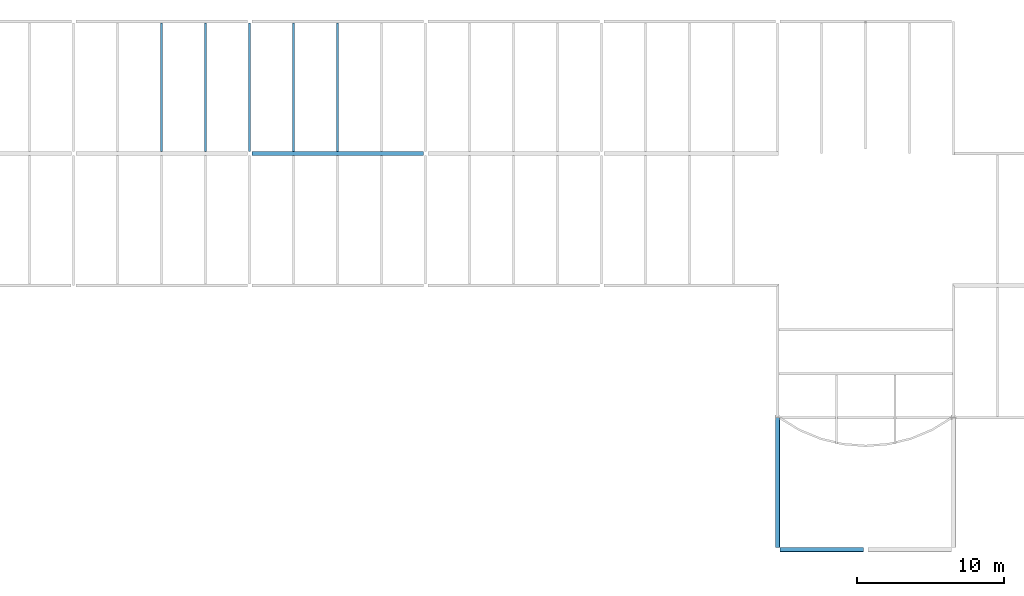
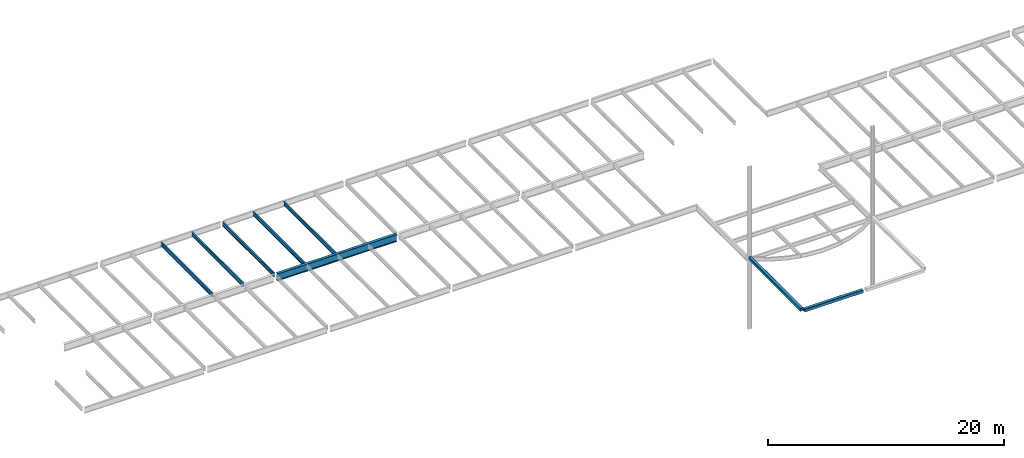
# One storey, part 4 of 21: 8 beams.
"""IFC2X3 building model written with IfcOpenShell, lengths in millimetres."""

from ifc_helpers import new_model, si_unit, origin, place, context, project, spatial, faceted_brep, material, element, save


model = new_model("IFC2X3")

# Units and contexts
context_of_model = context(None, 3, precision=1e-05, world=origin())
ifc_project = project(units=[si_unit("LENGTHUNIT", "METRE", prefix="MILLI")], contexts=[context_of_model])

# Building, storey
building = spatial("IfcBuilding", under=ifc_project, Name="Building", CompositionType="ELEMENT")
storey = spatial("IfcBuildingStorey", under=building, Name="FL6-FRM", CompositionType="ELEMENT")

# Beams
ifc_material_1 = material(Name="A992")
beam_1_placement = place(None, origin())
element("IfcBeam", 1, at=beam_1_placement, inside=storey, material=ifc_material_1, Name="B355", context=context_of_model, shape_type="Brep", body=[
    faceted_brep([(-42070.0, 35910.5, 21970.0), (-41930.0, 35910.5, 21970.0), (-41930.0, 27132.5, 21970.0), (-42070.0, 27132.5, 21970.0), (-41930.0, 35910.5, 21981.2), (-41930.0, 27132.5, 21981.2), (-41986.3, 35910.5, 21981.2), (-41986.3, 27132.5, 21981.2), (-41988.9, 35910.5, 21981.5), (-41988.9, 27132.5, 21981.5), (-41991.4, 35910.5, 21982.6), (-41991.4, 27132.5, 21982.6), (-41993.5, 35910.5, 21984.2), (-41993.5, 27132.5, 21984.2), (-41995.1, 35910.5, 21986.3), (-41995.1, 27132.5, 21986.3), (-41996.2, 35910.5, 21988.8), (-41996.2, 27132.5, 21988.8), (-41996.5, 35910.5, 21991.4), (-41996.5, 27132.5, 21991.4), (-41996.5, 35910.5, 22351.6), (-41996.5, 27132.5, 22351.6), (-41996.2, 35910.5, 22354.2), (-41996.2, 27132.5, 22354.2), (-41995.1, 35910.5, 22356.7), (-41995.1, 27132.5, 22356.7), (-41993.5, 35910.5, 22358.8), (-41993.5, 27132.5, 22358.8), (-41991.4, 35910.5, 22360.4), (-41991.4, 27132.5, 22360.4), (-41988.9, 35910.5, 22361.5), (-41988.9, 27132.5, 22361.5), (-41986.3, 35910.5, 22361.8), (-41986.3, 27132.5, 22361.8), (-41930.0, 35910.5, 22361.8), (-41930.0, 27132.5, 22361.8), (-41930.0, 35910.5, 22373.0), (-41930.0, 27132.5, 22373.0), (-42070.0, 35910.5, 22373.0), (-42070.0, 27132.5, 22373.0), (-42070.0, 35910.5, 22361.8), (-42070.0, 27132.5, 22361.8), (-42013.7, 35910.5, 22361.8), (-42013.7, 27132.5, 22361.8), (-42011.1, 35910.5, 22361.5), (-42011.1, 27132.5, 22361.5), (-42008.6, 35910.5, 22360.4), (-42008.6, 27132.5, 22360.4), (-42006.5, 35910.5, 22358.8), (-42006.5, 27132.5, 22358.8), (-42004.9, 35910.5, 22356.7), (-42004.9, 27132.5, 22356.7), (-42003.8, 35910.5, 22354.2), (-42003.8, 27132.5, 22354.2), (-42003.5, 35910.5, 22351.6), (-42003.5, 27132.5, 22351.6), (-42003.5, 35910.5, 21991.4), (-42003.5, 27132.5, 21991.4), (-42003.8, 35910.5, 21988.8), (-42003.8, 27132.5, 21988.8), (-42004.9, 35910.5, 21986.3), (-42004.9, 27132.5, 21986.3), (-42006.5, 35910.5, 21984.2), (-42006.5, 27132.5, 21984.2), (-42008.6, 35910.5, 21982.6), (-42008.6, 27132.5, 21982.6), (-42011.1, 35910.5, 21981.5), (-42011.1, 27132.5, 21981.5), (-42013.7, 35910.5, 21981.2), (-42013.7, 27132.5, 21981.2), (-42070.0, 35910.5, 21981.2), (-42070.0, 27132.5, 21981.2)], [[[0, 1, 2, 3]], [[1, 4, 5, 2]], [[4, 6, 7, 5]], [[6, 8, 9, 7]], [[8, 10, 11, 9]], [[10, 12, 13, 11]], [[12, 14, 15, 13]], [[14, 16, 17, 15]], [[16, 18, 19, 17]], [[18, 20, 21, 19]], [[20, 22, 23, 21]], [[22, 24, 25, 23]], [[24, 26, 27, 25]], [[26, 28, 29, 27]], [[28, 30, 31, 29]], [[30, 32, 33, 31]], [[32, 34, 35, 33]], [[34, 36, 37, 35]], [[36, 38, 39, 37]], [[38, 40, 41, 39]], [[40, 42, 43, 41]], [[42, 44, 45, 43]], [[44, 46, 47, 45]], [[46, 48, 49, 47]], [[48, 50, 51, 49]], [[50, 52, 53, 51]], [[52, 54, 55, 53]], [[54, 56, 57, 55]], [[56, 58, 59, 57]], [[58, 60, 61, 59]], [[60, 62, 63, 61]], [[62, 64, 65, 63]], [[64, 66, 67, 65]], [[66, 68, 69, 67]], [[68, 70, 71, 69]], [[70, 0, 3, 71]], [[0, 70, 68, 66, 64, 62, 60, 58, 56, 54, 52, 50, 48, 46, 44, 42, 40, 38, 36, 34, 32, 30, 28, 26, 24, 22, 20, 18, 16, 14, 12, 10, 8, 6, 4, 1]], [[3, 2, 5, 7, 9, 11, 13, 15, 17, 19, 21, 23, 25, 27, 29, 31, 33, 35, 37, 39, 41, 43, 45, 47, 49, 51, 53, 55, 57, 59, 61, 63, 65, 67, 69, 71]]]),
])
ifc_material_2 = material(Name="A992")
beam_2_placement = place(None, origin())
element("IfcBeam", 2, at=beam_2_placement, inside=storey, material=ifc_material_2, Name="B356", context=context_of_model, shape_type="Brep", body=[
    faceted_brep([(-39070.0, 35910.5, 21970.0), (-38930.0, 35910.5, 21970.0), (-38930.0, 27132.5, 21970.0), (-39070.0, 27132.5, 21970.0), (-38930.0, 35910.5, 21981.2), (-38930.0, 27132.5, 21981.2), (-38986.3, 35910.5, 21981.2), (-38986.3, 27132.5, 21981.2), (-38988.9, 35910.5, 21981.5), (-38988.9, 27132.5, 21981.5), (-38991.4, 35910.5, 21982.6), (-38991.4, 27132.5, 21982.6), (-38993.5, 35910.5, 21984.2), (-38993.5, 27132.5, 21984.2), (-38995.1, 35910.5, 21986.3), (-38995.1, 27132.5, 21986.3), (-38996.2, 35910.5, 21988.8), (-38996.2, 27132.5, 21988.8), (-38996.5, 35910.5, 21991.4), (-38996.5, 27132.5, 21991.4), (-38996.5, 35910.5, 22351.6), (-38996.5, 27132.5, 22351.6), (-38996.2, 35910.5, 22354.2), (-38996.2, 27132.5, 22354.2), (-38995.1, 35910.5, 22356.7), (-38995.1, 27132.5, 22356.7), (-38993.5, 35910.5, 22358.8), (-38993.5, 27132.5, 22358.8), (-38991.4, 35910.5, 22360.4), (-38991.4, 27132.5, 22360.4), (-38988.9, 35910.5, 22361.5), (-38988.9, 27132.5, 22361.5), (-38986.3, 35910.5, 22361.8), (-38986.3, 27132.5, 22361.8), (-38930.0, 35910.5, 22361.8), (-38930.0, 27132.5, 22361.8), (-38930.0, 35910.5, 22373.0), (-38930.0, 27132.5, 22373.0), (-39070.0, 35910.5, 22373.0), (-39070.0, 27132.5, 22373.0), (-39070.0, 35910.5, 22361.8), (-39070.0, 27132.5, 22361.8), (-39013.7, 35910.5, 22361.8), (-39013.7, 27132.5, 22361.8), (-39011.1, 35910.5, 22361.5), (-39011.1, 27132.5, 22361.5), (-39008.6, 35910.5, 22360.4), (-39008.6, 27132.5, 22360.4), (-39006.5, 35910.5, 22358.8), (-39006.5, 27132.5, 22358.8), (-39004.9, 35910.5, 22356.7), (-39004.9, 27132.5, 22356.7), (-39003.8, 35910.5, 22354.2), (-39003.8, 27132.5, 22354.2), (-39003.5, 35910.5, 22351.6), (-39003.5, 27132.5, 22351.6), (-39003.5, 35910.5, 21991.4), (-39003.5, 27132.5, 21991.4), (-39003.8, 35910.5, 21988.8), (-39003.8, 27132.5, 21988.8), (-39004.9, 35910.5, 21986.3), (-39004.9, 27132.5, 21986.3), (-39006.5, 35910.5, 21984.2), (-39006.5, 27132.5, 21984.2), (-39008.6, 35910.5, 21982.6), (-39008.6, 27132.5, 21982.6), (-39011.1, 35910.5, 21981.5), (-39011.1, 27132.5, 21981.5), (-39013.7, 35910.5, 21981.2), (-39013.7, 27132.5, 21981.2), (-39070.0, 35910.5, 21981.2), (-39070.0, 27132.5, 21981.2)], [[[0, 1, 2, 3]], [[1, 4, 5, 2]], [[4, 6, 7, 5]], [[6, 8, 9, 7]], [[8, 10, 11, 9]], [[10, 12, 13, 11]], [[12, 14, 15, 13]], [[14, 16, 17, 15]], [[16, 18, 19, 17]], [[18, 20, 21, 19]], [[20, 22, 23, 21]], [[22, 24, 25, 23]], [[24, 26, 27, 25]], [[26, 28, 29, 27]], [[28, 30, 31, 29]], [[30, 32, 33, 31]], [[32, 34, 35, 33]], [[34, 36, 37, 35]], [[36, 38, 39, 37]], [[38, 40, 41, 39]], [[40, 42, 43, 41]], [[42, 44, 45, 43]], [[44, 46, 47, 45]], [[46, 48, 49, 47]], [[48, 50, 51, 49]], [[50, 52, 53, 51]], [[52, 54, 55, 53]], [[54, 56, 57, 55]], [[56, 58, 59, 57]], [[58, 60, 61, 59]], [[60, 62, 63, 61]], [[62, 64, 65, 63]], [[64, 66, 67, 65]], [[66, 68, 69, 67]], [[68, 70, 71, 69]], [[70, 0, 3, 71]], [[0, 70, 68, 66, 64, 62, 60, 58, 56, 54, 52, 50, 48, 46, 44, 42, 40, 38, 36, 34, 32, 30, 28, 26, 24, 22, 20, 18, 16, 14, 12, 10, 8, 6, 4, 1]], [[3, 2, 5, 7, 9, 11, 13, 15, 17, 19, 21, 23, 25, 27, 29, 31, 33, 35, 37, 39, 41, 43, 45, 47, 49, 51, 53, 55, 57, 59, 61, 63, 65, 67, 69, 71]]]),
])
ifc_material_3 = material(Name="A992")
beam_3_placement = place(None, origin())
element("IfcBeam", 3, at=beam_3_placement, inside=storey, material=ifc_material_3, Name="B357", context=context_of_model, shape_type="Brep", body=[
    faceted_brep([(-36070.0, 35910.5, 21970.0), (-35930.0, 35910.5, 21970.0), (-35930.0, 27132.5, 21970.0), (-36070.0, 27132.5, 21970.0), (-35930.0, 35910.5, 21981.2), (-35930.0, 27132.5, 21981.2), (-35986.3, 35910.5, 21981.2), (-35986.3, 27132.5, 21981.2), (-35988.9, 35910.5, 21981.5), (-35988.9, 27132.5, 21981.5), (-35991.4, 35910.5, 21982.6), (-35991.4, 27132.5, 21982.6), (-35993.5, 35910.5, 21984.2), (-35993.5, 27132.5, 21984.2), (-35995.1, 35910.5, 21986.3), (-35995.1, 27132.5, 21986.3), (-35996.2, 35910.5, 21988.8), (-35996.2, 27132.5, 21988.8), (-35996.5, 35910.5, 21991.4), (-35996.5, 27132.5, 21991.4), (-35996.5, 35910.5, 22351.6), (-35996.5, 27132.5, 22351.6), (-35996.2, 35910.5, 22354.2), (-35996.2, 27132.5, 22354.2), (-35995.1, 35910.5, 22356.7), (-35995.1, 27132.5, 22356.7), (-35993.5, 35910.5, 22358.8), (-35993.5, 27132.5, 22358.8), (-35991.4, 35910.5, 22360.4), (-35991.4, 27132.5, 22360.4), (-35988.9, 35910.5, 22361.5), (-35988.9, 27132.5, 22361.5), (-35986.3, 35910.5, 22361.8), (-35986.3, 27132.5, 22361.8), (-35930.0, 35910.5, 22361.8), (-35930.0, 27132.5, 22361.8), (-35930.0, 35910.5, 22373.0), (-35930.0, 27132.5, 22373.0), (-36070.0, 35910.5, 22373.0), (-36070.0, 27132.5, 22373.0), (-36070.0, 35910.5, 22361.8), (-36070.0, 27132.5, 22361.8), (-36013.7, 35910.5, 22361.8), (-36013.7, 27132.5, 22361.8), (-36011.1, 35910.5, 22361.5), (-36011.1, 27132.5, 22361.5), (-36008.6, 35910.5, 22360.4), (-36008.6, 27132.5, 22360.4), (-36006.5, 35910.5, 22358.8), (-36006.5, 27132.5, 22358.8), (-36004.9, 35910.5, 22356.7), (-36004.9, 27132.5, 22356.7), (-36003.8, 35910.5, 22354.2), (-36003.8, 27132.5, 22354.2), (-36003.5, 35910.5, 22351.6), (-36003.5, 27132.5, 22351.6), (-36003.5, 35910.5, 21991.4), (-36003.5, 27132.5, 21991.4), (-36003.8, 35910.5, 21988.8), (-36003.8, 27132.5, 21988.8), (-36004.9, 35910.5, 21986.3), (-36004.9, 27132.5, 21986.3), (-36006.5, 35910.5, 21984.2), (-36006.5, 27132.5, 21984.2), (-36008.6, 35910.5, 21982.6), (-36008.6, 27132.5, 21982.6), (-36011.1, 35910.5, 21981.5), (-36011.1, 27132.5, 21981.5), (-36013.7, 35910.5, 21981.2), (-36013.7, 27132.5, 21981.2), (-36070.0, 35910.5, 21981.2), (-36070.0, 27132.5, 21981.2)], [[[0, 1, 2, 3]], [[1, 4, 5, 2]], [[4, 6, 7, 5]], [[6, 8, 9, 7]], [[8, 10, 11, 9]], [[10, 12, 13, 11]], [[12, 14, 15, 13]], [[14, 16, 17, 15]], [[16, 18, 19, 17]], [[18, 20, 21, 19]], [[20, 22, 23, 21]], [[22, 24, 25, 23]], [[24, 26, 27, 25]], [[26, 28, 29, 27]], [[28, 30, 31, 29]], [[30, 32, 33, 31]], [[32, 34, 35, 33]], [[34, 36, 37, 35]], [[36, 38, 39, 37]], [[38, 40, 41, 39]], [[40, 42, 43, 41]], [[42, 44, 45, 43]], [[44, 46, 47, 45]], [[46, 48, 49, 47]], [[48, 50, 51, 49]], [[50, 52, 53, 51]], [[52, 54, 55, 53]], [[54, 56, 57, 55]], [[56, 58, 59, 57]], [[58, 60, 61, 59]], [[60, 62, 63, 61]], [[62, 64, 65, 63]], [[64, 66, 67, 65]], [[66, 68, 69, 67]], [[68, 70, 71, 69]], [[70, 0, 3, 71]], [[0, 70, 68, 66, 64, 62, 60, 58, 56, 54, 52, 50, 48, 46, 44, 42, 40, 38, 36, 34, 32, 30, 28, 26, 24, 22, 20, 18, 16, 14, 12, 10, 8, 6, 4, 1]], [[3, 2, 5, 7, 9, 11, 13, 15, 17, 19, 21, 23, 25, 27, 29, 31, 33, 35, 37, 39, 41, 43, 45, 47, 49, 51, 53, 55, 57, 59, 61, 63, 65, 67, 69, 71]]]),
])
ifc_material_4 = material(Name="A992")
beam_4_placement = place(None, origin())
element("IfcBeam", 4, at=beam_4_placement, inside=storey, material=ifc_material_4, Name="Column438", context=context_of_model, shape_type="Brep", body=[
    faceted_brep([(-35846.0, 26867.5, 21620.0), (-35846.0, 27132.5, 21620.0), (-24154.0, 27132.5, 21620.0), (-24154.0, 26867.5, 21620.0), (-35846.0, 27132.5, 21637.0), (-24154.0, 27132.5, 21637.0), (-35846.0, 27023.1, 21637.0), (-24154.0, 27023.1, 21637.0), (-35846.0, 27018.8, 21637.6), (-24154.0, 27018.8, 21637.6), (-35846.0, 27014.8, 21639.2), (-24154.0, 27014.8, 21639.2), (-35846.0, 27011.4, 21641.8), (-24154.0, 27011.4, 21641.8), (-35846.0, 27008.8, 21645.2), (-24154.0, 27008.8, 21645.2), (-35846.0, 27007.2, 21649.2), (-24154.0, 27007.2, 21649.2), (-35846.0, 27006.6, 21653.5), (-24154.0, 27006.6, 21653.5), (-35846.0, 27006.6, 22339.5), (-24154.0, 27006.6, 22339.5), (-35846.0, 27007.2, 22343.8), (-24154.0, 27007.2, 22343.8), (-35846.0, 27008.8, 22347.8), (-24154.0, 27008.8, 22347.8), (-35846.0, 27011.4, 22351.2), (-24154.0, 27011.4, 22351.2), (-35846.0, 27014.8, 22353.8), (-24154.0, 27014.8, 22353.8), (-35846.0, 27018.8, 22355.4), (-24154.0, 27018.8, 22355.4), (-35846.0, 27023.1, 22356.0), (-24154.0, 27023.1, 22356.0), (-35846.0, 27132.5, 22356.0), (-24154.0, 27132.5, 22356.0), (-35846.0, 27132.5, 22373.0), (-24154.0, 27132.5, 22373.0), (-35846.0, 26867.5, 22373.0), (-24154.0, 26867.5, 22373.0), (-35846.0, 26867.5, 22356.0), (-24154.0, 26867.5, 22356.0), (-35846.0, 26976.9, 22356.0), (-24154.0, 26976.9, 22356.0), (-35846.0, 26981.2, 22355.4), (-24154.0, 26981.2, 22355.4), (-35846.0, 26985.2, 22353.8), (-24154.0, 26985.2, 22353.8), (-35846.0, 26988.6, 22351.2), (-24154.0, 26988.6, 22351.2), (-35846.0, 26991.2, 22347.8), (-24154.0, 26991.2, 22347.8), (-35846.0, 26992.8, 22343.8), (-24154.0, 26992.8, 22343.8), (-35846.0, 26993.4, 22339.5), (-24154.0, 26993.4, 22339.5), (-35846.0, 26993.4, 21653.5), (-24154.0, 26993.4, 21653.5), (-35846.0, 26992.8, 21649.2), (-24154.0, 26992.8, 21649.2), (-35846.0, 26991.2, 21645.3), (-24154.0, 26991.2, 21645.3), (-35846.0, 26988.6, 21641.8), (-24154.0, 26988.6, 21641.8), (-35846.0, 26985.2, 21639.2), (-24154.0, 26985.2, 21639.2), (-35846.0, 26981.2, 21637.6), (-24154.0, 26981.2, 21637.6), (-35846.0, 26976.9, 21637.0), (-24154.0, 26976.9, 21637.0), (-35846.0, 26867.5, 21637.0), (-24154.0, 26867.5, 21637.0)], [[[0, 1, 2, 3]], [[1, 4, 5, 2]], [[4, 6, 7, 5]], [[6, 8, 9, 7]], [[8, 10, 11, 9]], [[10, 12, 13, 11]], [[12, 14, 15, 13]], [[14, 16, 17, 15]], [[16, 18, 19, 17]], [[18, 20, 21, 19]], [[20, 22, 23, 21]], [[22, 24, 25, 23]], [[24, 26, 27, 25]], [[26, 28, 29, 27]], [[28, 30, 31, 29]], [[30, 32, 33, 31]], [[32, 34, 35, 33]], [[34, 36, 37, 35]], [[36, 38, 39, 37]], [[38, 40, 41, 39]], [[40, 42, 43, 41]], [[42, 44, 45, 43]], [[44, 46, 47, 45]], [[46, 48, 49, 47]], [[48, 50, 51, 49]], [[50, 52, 53, 51]], [[52, 54, 55, 53]], [[54, 56, 57, 55]], [[56, 58, 59, 57]], [[58, 60, 61, 59]], [[60, 62, 63, 61]], [[62, 64, 65, 63]], [[64, 66, 67, 65]], [[66, 68, 69, 67]], [[68, 70, 71, 69]], [[70, 0, 3, 71]], [[0, 70, 68, 66, 64, 62, 60, 58, 56, 54, 52, 50, 48, 46, 44, 42, 40, 38, 36, 34, 32, 30, 28, 26, 24, 22, 20, 18, 16, 14, 12, 10, 8, 6, 4, 1]], [[3, 2, 5, 7, 9, 11, 13, 15, 17, 19, 21, 23, 25, 27, 29, 31, 33, 35, 37, 39, 41, 43, 45, 47, 49, 51, 53, 55, 57, 59, 61, 63, 65, 67, 69, 71]]]),
])
ifc_material_5 = material(Name="A992")
beam_5_placement = place(None, origin())
element("IfcBeam", 5, at=beam_5_placement, inside=storey, material=ifc_material_5, Name="B358", context=context_of_model, shape_type="Brep", body=[
    faceted_brep([(-33070.0, 35910.5, 21970.0), (-32930.0, 35910.5, 21970.0), (-32930.0, 27132.5, 21970.0), (-33070.0, 27132.5, 21970.0), (-32930.0, 35910.5, 21981.2), (-32930.0, 27132.5, 21981.2), (-32986.3, 35910.5, 21981.2), (-32986.3, 27132.5, 21981.2), (-32988.9, 35910.5, 21981.5), (-32988.9, 27132.5, 21981.5), (-32991.4, 35910.5, 21982.6), (-32991.4, 27132.5, 21982.6), (-32993.5, 35910.5, 21984.2), (-32993.5, 27132.5, 21984.2), (-32995.1, 35910.5, 21986.3), (-32995.1, 27132.5, 21986.3), (-32996.2, 35910.5, 21988.8), (-32996.2, 27132.5, 21988.8), (-32996.5, 35910.5, 21991.4), (-32996.5, 27132.5, 21991.4), (-32996.5, 35910.5, 22351.6), (-32996.5, 27132.5, 22351.6), (-32996.2, 35910.5, 22354.2), (-32996.2, 27132.5, 22354.2), (-32995.1, 35910.5, 22356.7), (-32995.1, 27132.5, 22356.7), (-32993.5, 35910.5, 22358.8), (-32993.5, 27132.5, 22358.8), (-32991.4, 35910.5, 22360.4), (-32991.4, 27132.5, 22360.4), (-32988.9, 35910.5, 22361.5), (-32988.9, 27132.5, 22361.5), (-32986.3, 35910.5, 22361.8), (-32986.3, 27132.5, 22361.8), (-32930.0, 35910.5, 22361.8), (-32930.0, 27132.5, 22361.8), (-32930.0, 35910.5, 22373.0), (-32930.0, 27132.5, 22373.0), (-33070.0, 35910.5, 22373.0), (-33070.0, 27132.5, 22373.0), (-33070.0, 35910.5, 22361.8), (-33070.0, 27132.5, 22361.8), (-33013.7, 35910.5, 22361.8), (-33013.7, 27132.5, 22361.8), (-33011.1, 35910.5, 22361.5), (-33011.1, 27132.5, 22361.5), (-33008.6, 35910.5, 22360.4), (-33008.6, 27132.5, 22360.4), (-33006.5, 35910.5, 22358.8), (-33006.5, 27132.5, 22358.8), (-33004.9, 35910.5, 22356.7), (-33004.9, 27132.5, 22356.7), (-33003.8, 35910.5, 22354.2), (-33003.8, 27132.5, 22354.2), (-33003.5, 35910.5, 22351.6), (-33003.5, 27132.5, 22351.6), (-33003.5, 35910.5, 21991.4), (-33003.5, 27132.5, 21991.4), (-33003.8, 35910.5, 21988.8), (-33003.8, 27132.5, 21988.8), (-33004.9, 35910.5, 21986.3), (-33004.9, 27132.5, 21986.3), (-33006.5, 35910.5, 21984.2), (-33006.5, 27132.5, 21984.2), (-33008.6, 35910.5, 21982.6), (-33008.6, 27132.5, 21982.6), (-33011.1, 35910.5, 21981.5), (-33011.1, 27132.5, 21981.5), (-33013.7, 35910.5, 21981.2), (-33013.7, 27132.5, 21981.2), (-33070.0, 35910.5, 21981.2), (-33070.0, 27132.5, 21981.2)], [[[0, 1, 2, 3]], [[1, 4, 5, 2]], [[4, 6, 7, 5]], [[6, 8, 9, 7]], [[8, 10, 11, 9]], [[10, 12, 13, 11]], [[12, 14, 15, 13]], [[14, 16, 17, 15]], [[16, 18, 19, 17]], [[18, 20, 21, 19]], [[20, 22, 23, 21]], [[22, 24, 25, 23]], [[24, 26, 27, 25]], [[26, 28, 29, 27]], [[28, 30, 31, 29]], [[30, 32, 33, 31]], [[32, 34, 35, 33]], [[34, 36, 37, 35]], [[36, 38, 39, 37]], [[38, 40, 41, 39]], [[40, 42, 43, 41]], [[42, 44, 45, 43]], [[44, 46, 47, 45]], [[46, 48, 49, 47]], [[48, 50, 51, 49]], [[50, 52, 53, 51]], [[52, 54, 55, 53]], [[54, 56, 57, 55]], [[56, 58, 59, 57]], [[58, 60, 61, 59]], [[60, 62, 63, 61]], [[62, 64, 65, 63]], [[64, 66, 67, 65]], [[66, 68, 69, 67]], [[68, 70, 71, 69]], [[70, 0, 3, 71]], [[0, 70, 68, 66, 64, 62, 60, 58, 56, 54, 52, 50, 48, 46, 44, 42, 40, 38, 36, 34, 32, 30, 28, 26, 24, 22, 20, 18, 16, 14, 12, 10, 8, 6, 4, 1]], [[3, 2, 5, 7, 9, 11, 13, 15, 17, 19, 21, 23, 25, 27, 29, 31, 33, 35, 37, 39, 41, 43, 45, 47, 49, 51, 53, 55, 57, 59, 61, 63, 65, 67, 69, 71]]]),
])
ifc_material_6 = material(Name="A992")
beam_6_placement = place(None, origin())
element("IfcBeam", 6, at=beam_6_placement, inside=storey, material=ifc_material_6, Name="B359", context=context_of_model, shape_type="Brep", body=[
    faceted_brep([(-30070.0, 35910.5, 21970.0), (-29930.0, 35910.5, 21970.0), (-29930.0, 27132.5, 21970.0), (-30070.0, 27132.5, 21970.0), (-29930.0, 35910.5, 21981.2), (-29930.0, 27132.5, 21981.2), (-29986.3, 35910.5, 21981.2), (-29986.3, 27132.5, 21981.2), (-29988.9, 35910.5, 21981.5), (-29988.9, 27132.5, 21981.5), (-29991.4, 35910.5, 21982.6), (-29991.4, 27132.5, 21982.6), (-29993.5, 35910.5, 21984.2), (-29993.5, 27132.5, 21984.2), (-29995.1, 35910.5, 21986.3), (-29995.1, 27132.5, 21986.3), (-29996.2, 35910.5, 21988.8), (-29996.2, 27132.5, 21988.8), (-29996.5, 35910.5, 21991.4), (-29996.5, 27132.5, 21991.4), (-29996.5, 35910.5, 22351.6), (-29996.5, 27132.5, 22351.6), (-29996.2, 35910.5, 22354.2), (-29996.2, 27132.5, 22354.2), (-29995.1, 35910.5, 22356.7), (-29995.1, 27132.5, 22356.7), (-29993.5, 35910.5, 22358.8), (-29993.5, 27132.5, 22358.8), (-29991.4, 35910.5, 22360.4), (-29991.4, 27132.5, 22360.4), (-29988.9, 35910.5, 22361.5), (-29988.9, 27132.5, 22361.5), (-29986.3, 35910.5, 22361.8), (-29986.3, 27132.5, 22361.8), (-29930.0, 35910.5, 22361.8), (-29930.0, 27132.5, 22361.8), (-29930.0, 35910.5, 22373.0), (-29930.0, 27132.5, 22373.0), (-30070.0, 35910.5, 22373.0), (-30070.0, 27132.5, 22373.0), (-30070.0, 35910.5, 22361.8), (-30070.0, 27132.5, 22361.8), (-30013.7, 35910.5, 22361.8), (-30013.7, 27132.5, 22361.8), (-30011.1, 35910.5, 22361.5), (-30011.1, 27132.5, 22361.5), (-30008.6, 35910.5, 22360.4), (-30008.6, 27132.5, 22360.4), (-30006.5, 35910.5, 22358.8), (-30006.5, 27132.5, 22358.8), (-30004.9, 35910.5, 22356.7), (-30004.9, 27132.5, 22356.7), (-30003.8, 35910.5, 22354.2), (-30003.8, 27132.5, 22354.2), (-30003.5, 35910.5, 22351.6), (-30003.5, 27132.5, 22351.6), (-30003.5, 35910.5, 21991.4), (-30003.5, 27132.5, 21991.4), (-30003.8, 35910.5, 21988.8), (-30003.8, 27132.5, 21988.8), (-30004.9, 35910.5, 21986.3), (-30004.9, 27132.5, 21986.3), (-30006.5, 35910.5, 21984.2), (-30006.5, 27132.5, 21984.2), (-30008.6, 35910.5, 21982.6), (-30008.6, 27132.5, 21982.6), (-30011.1, 35910.5, 21981.5), (-30011.1, 27132.5, 21981.5), (-30013.7, 35910.5, 21981.2), (-30013.7, 27132.5, 21981.2), (-30070.0, 35910.5, 21981.2), (-30070.0, 27132.5, 21981.2)], [[[0, 1, 2, 3]], [[1, 4, 5, 2]], [[4, 6, 7, 5]], [[6, 8, 9, 7]], [[8, 10, 11, 9]], [[10, 12, 13, 11]], [[12, 14, 15, 13]], [[14, 16, 17, 15]], [[16, 18, 19, 17]], [[18, 20, 21, 19]], [[20, 22, 23, 21]], [[22, 24, 25, 23]], [[24, 26, 27, 25]], [[26, 28, 29, 27]], [[28, 30, 31, 29]], [[30, 32, 33, 31]], [[32, 34, 35, 33]], [[34, 36, 37, 35]], [[36, 38, 39, 37]], [[38, 40, 41, 39]], [[40, 42, 43, 41]], [[42, 44, 45, 43]], [[44, 46, 47, 45]], [[46, 48, 49, 47]], [[48, 50, 51, 49]], [[50, 52, 53, 51]], [[52, 54, 55, 53]], [[54, 56, 57, 55]], [[56, 58, 59, 57]], [[58, 60, 61, 59]], [[60, 62, 63, 61]], [[62, 64, 65, 63]], [[64, 66, 67, 65]], [[66, 68, 69, 67]], [[68, 70, 71, 69]], [[70, 0, 3, 71]], [[0, 70, 68, 66, 64, 62, 60, 58, 56, 54, 52, 50, 48, 46, 44, 42, 40, 38, 36, 34, 32, 30, 28, 26, 24, 22, 20, 18, 16, 14, 12, 10, 8, 6, 4, 1]], [[3, 2, 5, 7, 9, 11, 13, 15, 17, 19, 21, 23, 25, 27, 29, 31, 33, 35, 37, 39, 41, 43, 45, 47, 49, 51, 53, 55, 57, 59, 61, 63, 65, 67, 69, 71]]]),
])
ifc_material_7 = material(Name="A500 grade B")
beam_7_placement = place(None, origin())
element("IfcBeam", 7, at=beam_7_placement, inside=storey, material=ifc_material_7, Name="B1223", context=context_of_model, shape_type="Brep", body=[
    faceted_brep([(-1.94289e-12, 8995.05, 22195.0), (133.5, 8995.05, 22195.0), (133.5, 152.5, 22195.0), (-1.94289e-12, 152.5, 22195.0), (138.418, 8995.05, 22195.6), (138.418, 152.5, 22195.6), (143.0, 8995.05, 22197.5), (143.0, 152.5, 22197.5), (146.935, 8995.05, 22200.6), (146.935, 152.5, 22200.6), (149.954, 8995.05, 22204.5), (149.954, 152.5, 22204.5), (151.853, 8995.05, 22209.1), (151.853, 152.5, 22209.1), (152.5, 8995.05, 22214.0), (152.5, 152.5, 22214.0), (152.5, 8995.05, 22481.0), (152.5, 152.5, 22481.0), (151.853, 8995.05, 22485.9), (151.853, 152.5, 22485.9), (149.954, 8995.05, 22490.5), (149.954, 152.5, 22490.5), (146.935, 8995.05, 22494.4), (146.935, 152.5, 22494.4), (143.0, 8995.05, 22497.5), (143.0, 152.5, 22497.5), (138.418, 8995.05, 22499.4), (138.418, 152.5, 22499.4), (133.5, 8995.05, 22500.0), (133.5, 152.5, 22500.0), (-133.5, 8995.05, 22500.0), (-133.5, 152.5, 22500.0), (-138.418, 8995.05, 22499.4), (-138.418, 152.5, 22499.4), (-143.0, 8995.05, 22497.5), (-143.0, 152.5, 22497.5), (-146.935, 8995.05, 22494.4), (-146.935, 152.5, 22494.4), (-149.954, 8995.05, 22490.5), (-149.954, 152.5, 22490.5), (-151.853, 8995.05, 22485.9), (-151.853, 152.5, 22485.9), (-152.5, 8995.05, 22481.0), (-152.5, 152.5, 22481.0), (-152.5, 8995.05, 22214.0), (-152.5, 152.5, 22214.0), (-151.853, 8995.05, 22209.1), (-151.853, 152.5, 22209.1), (-149.954, 8995.05, 22204.5), (-149.954, 152.5, 22204.5), (-146.935, 8995.05, 22200.6), (-146.935, 152.5, 22200.6), (-143.0, 8995.05, 22197.5), (-143.0, 152.5, 22197.5), (-138.418, 8995.05, 22195.6), (-138.418, 152.5, 22195.6), (-133.5, 8995.05, 22195.0), (-133.5, 152.5, 22195.0), (-1.94289e-12, 8995.05, 22204.5), (-133.5, 8995.05, 22204.5), (-133.5, 152.5, 22204.5), (-1.94289e-12, 152.5, 22204.5), (-135.959, 8995.05, 22204.8), (-135.959, 152.5, 22204.8), (-138.25, 8995.05, 22205.8), (-138.25, 152.5, 22205.8), (-140.218, 8995.05, 22207.3), (-140.218, 152.5, 22207.3), (-141.727, 8995.05, 22209.3), (-141.727, 152.5, 22209.3), (-142.676, 8995.05, 22211.5), (-142.676, 152.5, 22211.5), (-143.0, 8995.05, 22214.0), (-143.0, 152.5, 22214.0), (-143.0, 8995.05, 22481.0), (-143.0, 152.5, 22481.0), (-142.676, 8995.05, 22483.5), (-142.676, 152.5, 22483.5), (-141.727, 8995.05, 22485.8), (-141.727, 152.5, 22485.8), (-140.218, 8995.05, 22487.7), (-140.218, 152.5, 22487.7), (-138.25, 8995.05, 22489.2), (-138.25, 152.5, 22489.2), (-135.959, 8995.05, 22490.2), (-135.959, 152.5, 22490.2), (-133.5, 8995.05, 22490.5), (-133.5, 152.5, 22490.5), (133.5, 8995.05, 22490.5), (133.5, 152.5, 22490.5), (135.959, 8995.05, 22490.2), (135.959, 152.5, 22490.2), (138.25, 8995.05, 22489.2), (138.25, 152.5, 22489.2), (140.218, 8995.05, 22487.7), (140.218, 152.5, 22487.7), (141.727, 8995.05, 22485.8), (141.727, 152.5, 22485.8), (142.676, 8995.05, 22483.5), (142.676, 152.5, 22483.5), (143.0, 8995.05, 22481.0), (143.0, 152.5, 22481.0), (143.0, 8995.05, 22214.0), (143.0, 152.5, 22214.0), (142.676, 8995.05, 22211.5), (142.676, 152.5, 22211.5), (141.727, 8995.05, 22209.3), (141.727, 152.5, 22209.3), (140.218, 8995.05, 22207.3), (140.218, 152.5, 22207.3), (138.25, 8995.05, 22205.8), (138.25, 152.5, 22205.8), (135.959, 8995.05, 22204.8), (135.959, 152.5, 22204.8), (133.5, 8995.05, 22204.5), (133.5, 152.5, 22204.5)], [[[0, 1, 2, 3]], [[1, 4, 5, 2]], [[4, 6, 7, 5]], [[6, 8, 9, 7]], [[8, 10, 11, 9]], [[10, 12, 13, 11]], [[12, 14, 15, 13]], [[14, 16, 17, 15]], [[16, 18, 19, 17]], [[18, 20, 21, 19]], [[20, 22, 23, 21]], [[22, 24, 25, 23]], [[24, 26, 27, 25]], [[26, 28, 29, 27]], [[28, 30, 31, 29]], [[30, 32, 33, 31]], [[32, 34, 35, 33]], [[34, 36, 37, 35]], [[36, 38, 39, 37]], [[38, 40, 41, 39]], [[40, 42, 43, 41]], [[42, 44, 45, 43]], [[44, 46, 47, 45]], [[46, 48, 49, 47]], [[48, 50, 51, 49]], [[50, 52, 53, 51]], [[52, 54, 55, 53]], [[54, 56, 57, 55]], [[56, 0, 3, 57]], [[58, 59, 60, 61]], [[59, 62, 63, 60]], [[62, 64, 65, 63]], [[64, 66, 67, 65]], [[66, 68, 69, 67]], [[68, 70, 71, 69]], [[70, 72, 73, 71]], [[72, 74, 75, 73]], [[74, 76, 77, 75]], [[76, 78, 79, 77]], [[78, 80, 81, 79]], [[80, 82, 83, 81]], [[82, 84, 85, 83]], [[84, 86, 87, 85]], [[86, 88, 89, 87]], [[88, 90, 91, 89]], [[90, 92, 93, 91]], [[92, 94, 95, 93]], [[94, 96, 97, 95]], [[96, 98, 99, 97]], [[98, 100, 101, 99]], [[100, 102, 103, 101]], [[102, 104, 105, 103]], [[104, 106, 107, 105]], [[106, 108, 109, 107]], [[108, 110, 111, 109]], [[110, 112, 113, 111]], [[112, 114, 115, 113]], [[114, 58, 61, 115]], [[0, 56, 54, 52, 50, 48, 46, 44, 42, 40, 38, 36, 34, 32, 30, 28, 26, 24, 22, 20, 18, 16, 14, 12, 10, 8, 6, 4, 1], [58, 114, 112, 110, 108, 106, 104, 102, 100, 98, 96, 94, 92, 90, 88, 86, 84, 82, 80, 78, 76, 74, 72, 70, 68, 66, 64, 62, 59]], [[3, 2, 5, 7, 9, 11, 13, 15, 17, 19, 21, 23, 25, 27, 29, 31, 33, 35, 37, 39, 41, 43, 45, 47, 49, 51, 53, 55, 57], [61, 60, 63, 65, 67, 69, 71, 73, 75, 77, 79, 81, 83, 85, 87, 89, 91, 93, 95, 97, 99, 101, 103, 105, 107, 109, 111, 113, 115]]]),
])
ifc_material_8 = material(Name="A500 grade B")
beam_8_placement = place(None, origin())
element("IfcBeam", 8, at=beam_8_placement, inside=storey, material=ifc_material_8, Name="B1226", context=context_of_model, shape_type="Brep", body=[
    faceted_brep([(5847.5, 1.94289e-12, 22195.0), (5847.5, -133.5, 22195.0), (152.5, -133.5, 22195.0), (152.5, 1.94289e-12, 22195.0), (5847.5, -138.418, 22195.6), (152.5, -138.418, 22195.6), (5847.5, -143.0, 22197.5), (152.5, -143.0, 22197.5), (5847.5, -146.935, 22200.6), (152.5, -146.935, 22200.6), (5847.5, -149.954, 22204.5), (152.5, -149.954, 22204.5), (5847.5, -151.853, 22209.1), (152.5, -151.853, 22209.1), (5847.5, -152.5, 22214.0), (152.5, -152.5, 22214.0), (5847.5, -152.5, 22481.0), (152.5, -152.5, 22481.0), (5847.5, -151.853, 22485.9), (152.5, -151.853, 22485.9), (5847.5, -149.954, 22490.5), (152.5, -149.954, 22490.5), (5847.5, -146.935, 22494.4), (152.5, -146.935, 22494.4), (5847.5, -143.0, 22497.5), (152.5, -143.0, 22497.5), (5847.5, -138.418, 22499.4), (152.5, -138.418, 22499.4), (5847.5, -133.5, 22500.0), (152.5, -133.5, 22500.0), (5847.5, 133.5, 22500.0), (152.5, 133.5, 22500.0), (5847.5, 138.418, 22499.4), (152.5, 138.418, 22499.4), (5847.5, 143.0, 22497.5), (152.5, 143.0, 22497.5), (5847.5, 146.935, 22494.4), (152.5, 146.935, 22494.4), (5847.5, 149.954, 22490.5), (152.5, 149.954, 22490.5), (5847.5, 151.853, 22485.9), (152.5, 151.853, 22485.9), (5847.5, 152.5, 22481.0), (152.5, 152.5, 22481.0), (5847.5, 152.5, 22214.0), (152.5, 152.5, 22214.0), (5847.5, 151.853, 22209.1), (152.5, 151.853, 22209.1), (5847.5, 149.954, 22204.5), (152.5, 149.954, 22204.5), (5847.5, 146.935, 22200.6), (152.5, 146.935, 22200.6), (5847.5, 143.0, 22197.5), (152.5, 143.0, 22197.5), (5847.5, 138.418, 22195.6), (152.5, 138.418, 22195.6), (5847.5, 133.5, 22195.0), (152.5, 133.5, 22195.0), (5847.5, 1.94289e-12, 22204.5), (5847.5, 133.5, 22204.5), (152.5, 133.5, 22204.5), (152.5, 1.94289e-12, 22204.5), (5847.5, 135.959, 22204.8), (152.5, 135.959, 22204.8), (5847.5, 138.25, 22205.8), (152.5, 138.25, 22205.8), (5847.5, 140.218, 22207.3), (152.5, 140.218, 22207.3), (5847.5, 141.727, 22209.3), (152.5, 141.727, 22209.3), (5847.5, 142.676, 22211.5), (152.5, 142.676, 22211.5), (5847.5, 143.0, 22214.0), (152.5, 143.0, 22214.0), (5847.5, 143.0, 22481.0), (152.5, 143.0, 22481.0), (5847.5, 142.676, 22483.5), (152.5, 142.676, 22483.5), (5847.5, 141.727, 22485.8), (152.5, 141.727, 22485.8), (5847.5, 140.218, 22487.7), (152.5, 140.218, 22487.7), (5847.5, 138.25, 22489.2), (152.5, 138.25, 22489.2), (5847.5, 135.959, 22490.2), (152.5, 135.959, 22490.2), (5847.5, 133.5, 22490.5), (152.5, 133.5, 22490.5), (5847.5, -133.5, 22490.5), (152.5, -133.5, 22490.5), (5847.5, -135.959, 22490.2), (152.5, -135.959, 22490.2), (5847.5, -138.25, 22489.2), (152.5, -138.25, 22489.2), (5847.5, -140.218, 22487.7), (152.5, -140.218, 22487.7), (5847.5, -141.727, 22485.8), (152.5, -141.727, 22485.8), (5847.5, -142.676, 22483.5), (152.5, -142.676, 22483.5), (5847.5, -143.0, 22481.0), (152.5, -143.0, 22481.0), (5847.5, -143.0, 22214.0), (152.5, -143.0, 22214.0), (5847.5, -142.676, 22211.5), (152.5, -142.676, 22211.5), (5847.5, -141.727, 22209.3), (152.5, -141.727, 22209.3), (5847.5, -140.218, 22207.3), (152.5, -140.218, 22207.3), (5847.5, -138.25, 22205.8), (152.5, -138.25, 22205.8), (5847.5, -135.959, 22204.8), (152.5, -135.959, 22204.8), (5847.5, -133.5, 22204.5), (152.5, -133.5, 22204.5)], [[[0, 1, 2, 3]], [[1, 4, 5, 2]], [[4, 6, 7, 5]], [[6, 8, 9, 7]], [[8, 10, 11, 9]], [[10, 12, 13, 11]], [[12, 14, 15, 13]], [[14, 16, 17, 15]], [[16, 18, 19, 17]], [[18, 20, 21, 19]], [[20, 22, 23, 21]], [[22, 24, 25, 23]], [[24, 26, 27, 25]], [[26, 28, 29, 27]], [[28, 30, 31, 29]], [[30, 32, 33, 31]], [[32, 34, 35, 33]], [[34, 36, 37, 35]], [[36, 38, 39, 37]], [[38, 40, 41, 39]], [[40, 42, 43, 41]], [[42, 44, 45, 43]], [[44, 46, 47, 45]], [[46, 48, 49, 47]], [[48, 50, 51, 49]], [[50, 52, 53, 51]], [[52, 54, 55, 53]], [[54, 56, 57, 55]], [[56, 0, 3, 57]], [[58, 59, 60, 61]], [[59, 62, 63, 60]], [[62, 64, 65, 63]], [[64, 66, 67, 65]], [[66, 68, 69, 67]], [[68, 70, 71, 69]], [[70, 72, 73, 71]], [[72, 74, 75, 73]], [[74, 76, 77, 75]], [[76, 78, 79, 77]], [[78, 80, 81, 79]], [[80, 82, 83, 81]], [[82, 84, 85, 83]], [[84, 86, 87, 85]], [[86, 88, 89, 87]], [[88, 90, 91, 89]], [[90, 92, 93, 91]], [[92, 94, 95, 93]], [[94, 96, 97, 95]], [[96, 98, 99, 97]], [[98, 100, 101, 99]], [[100, 102, 103, 101]], [[102, 104, 105, 103]], [[104, 106, 107, 105]], [[106, 108, 109, 107]], [[108, 110, 111, 109]], [[110, 112, 113, 111]], [[112, 114, 115, 113]], [[114, 58, 61, 115]], [[0, 56, 54, 52, 50, 48, 46, 44, 42, 40, 38, 36, 34, 32, 30, 28, 26, 24, 22, 20, 18, 16, 14, 12, 10, 8, 6, 4, 1], [58, 114, 112, 110, 108, 106, 104, 102, 100, 98, 96, 94, 92, 90, 88, 86, 84, 82, 80, 78, 76, 74, 72, 70, 68, 66, 64, 62, 59]], [[3, 2, 5, 7, 9, 11, 13, 15, 17, 19, 21, 23, 25, 27, 29, 31, 33, 35, 37, 39, 41, 43, 45, 47, 49, 51, 53, 55, 57], [61, 60, 63, 65, 67, 69, 71, 73, 75, 77, 79, 81, 83, 85, 87, 89, 91, 93, 95, 97, 99, 101, 103, 105, 107, 109, 111, 113, 115]]]),
])

save(model, "model.ifc")
